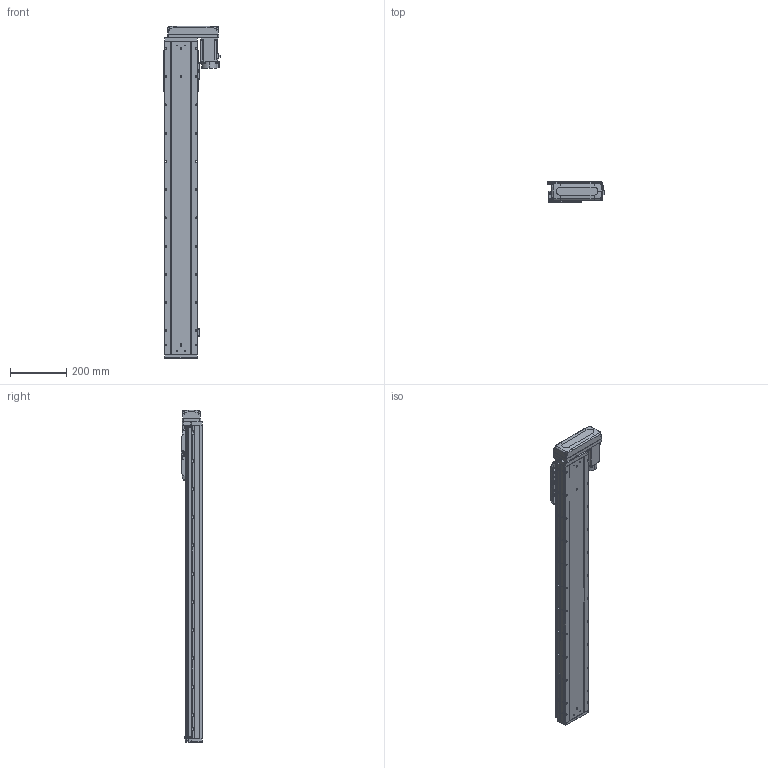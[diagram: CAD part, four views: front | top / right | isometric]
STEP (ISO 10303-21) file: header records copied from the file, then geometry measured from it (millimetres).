
FILE_DESCRIPTION (( 'STEP AP203' ), '1' );
FILE_NAME ('GTH12-900-BL-M40-C4.step', '2023-07-04T10:42:03', ( '微软用户' ), ( '微软中国' ), 'SwSTEP 2.0', 'SolidWorks 2020', '' );
FILE_SCHEMA (( 'CONFIG_CONTROL_DESIGN' ));
Length unit declared in the file: millimetre
Products named in the file (18): hg-kn43j_-s100_; GTH120-003; GTH80-022; CTHA86-033_M40B; GTH120-006; GTH80-028; GTH120-027-1_GTH120-027-2; GTH120-004; GTH50-023; GTH12-900-BL-M40-C4; GTH120-013; GTH50-024; GBT 70.1-M3℅6; GBT96.1-2002 3×0.8; GBT 70.1-M5×16; BTH-M3X5X6; GTH120-001_900; GBT 70.3-M3℅8
Assembly tree (59 placements, depth 2):
  GTH12-900-BL-M40-C4
    GTH120-001_900
    GTH120-003
    GTH120-006
    GTH120-004
    GTH120-013
    GBT 70.1-M3℅6  x14
    GBT 70.1-M5×16  x10
    GBT 70.3-M3℅8  x4
    GTH80-022
    GTH80-028  x2
    GTH50-023  x3
    GTH50-024  x3
    GBT96.1-2002 3×0.8  x6
    BTH-M3X5X6  x8
    hg-kn43j_-s100_
    CTHA86-033_M40B
    GTH120-027-1_GTH120-027-2
Bounding box: 199.8 x 76 x 1175.5 mm (x, y, z)
Volume: 8515128.6 mm3; surface area: 744595.2 mm2
Topology: 61 solids, 61 shells, 2520 faces, 5899 edges, 3621 vertices
Faces by surface type: plane 1286, cylinder 742, cone 304, torus 174, sphere 8, bspline 6
Entity records: 47965 total; most frequent: CARTESIAN_POINT 8126, DIRECTION 7971, ORIENTED_EDGE 7408, EDGE_CURVE 3704, AXIS2_PLACEMENT_3D 2787, LINE 2397, VECTOR 2397, VERTEX_POINT 2342
